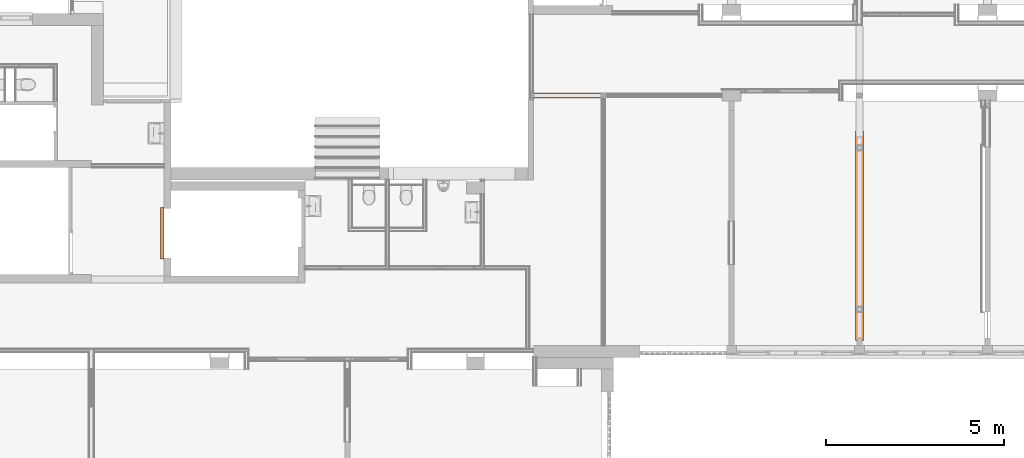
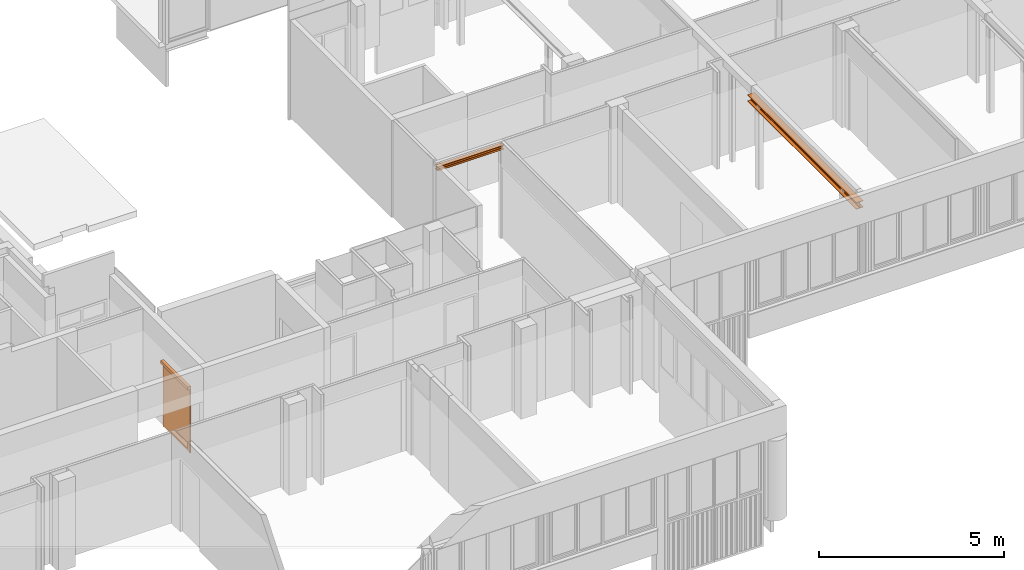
# One storey, part 94 of 99: 3 proxies.
"""IFC2X3 building model written with IfcOpenShell, lengths in millimetres."""

from ifc_helpers import new_model, entity, si_unit, converted_unit, derived_unit, money_unit, direction, frame, origin_with_axes, place, context, subcontext, project, spatial, open_shell, faceted_brep, surface_model, material, type_object, element, save


model = new_model("IFC2X3")

# Units and contexts
model_context = context("Model", 3, precision=0.01, world=origin_with_axes(), true_north=direction((0.0, 1.0)))
body_context = subcontext(model_context, "Body", "Model", "MODEL_VIEW")
ifc_project = project(units=[si_unit("LENGTHUNIT", "METRE", prefix="MILLI"), si_unit("AREAUNIT", "SQUARE_METRE"), si_unit("VOLUMEUNIT", "CUBIC_METRE"), converted_unit("PLANEANGLEUNIT", "DEGREE", entity("IfcPlaneAngleMeasure", 0.0174532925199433), si_unit("PLANEANGLEUNIT", "RADIAN"), dimensions=[0, 0, 0, 0, 0, 0, 0]), money_unit("EUR"), converted_unit("TIMEUNIT", "Year", entity("IfcTimeMeasure", 31557600.0), si_unit("TIMEUNIT", "SECOND"), dimensions=[0, 0, 1, 0, 0, 0, 0]), si_unit("MASSUNIT", "GRAM", prefix="KILO"), si_unit("THERMODYNAMICTEMPERATUREUNIT", "DEGREE_CELSIUS"), si_unit("LUMINOUSINTENSITYUNIT", "LUMEN"), si_unit("ENERGYUNIT", "JOULE", prefix="MEGA"), derived_unit("THERMALCONDUCTANCEUNIT", [(si_unit("POWERUNIT", "WATT"), 1), (si_unit("LENGTHUNIT", "METRE"), -1), (si_unit("THERMODYNAMICTEMPERATUREUNIT", "KELVIN"), -1)]), derived_unit("SPECIFICHEATCAPACITYUNIT", [(si_unit("ENERGYUNIT", "JOULE"), 1), (si_unit("MASSUNIT", "GRAM", prefix="KILO"), -1), (si_unit("THERMODYNAMICTEMPERATUREUNIT", "KELVIN"), -1)]), derived_unit("MASSDENSITYUNIT", [(si_unit("MASSUNIT", "GRAM", prefix="KILO"), 1), (si_unit("VOLUMEUNIT", "CUBIC_METRE"), -1)])], contexts=[model_context])

# Site, building, storey
site_placement = place(None, origin_with_axes())
site = spatial("IfcSite", under=ifc_project, at=site_placement, Name="Site", CompositionType="ELEMENT")
building_placement = place(site_placement, origin_with_axes())
building = spatial("IfcBuilding", under=site, at=building_placement, Name="Naam gebouw", CompositionType="ELEMENT")
storey_placement = place(building_placement, frame((0.0, 0.0, 7650.0), z_axis=(0.0, 0.0, 1.0), x_axis=(1.0, 0.0, 0.0)))
storey = spatial("IfcBuildingStorey", under=building, at=storey_placement, Name="2e verdieping N", CompositionType="ELEMENT", Elevation=7650.0)

# Proxies
ifc_material = material(Name="Metaal - Staal AFW")
building_element_proxy_type_1 = type_object("IfcBuildingElementProxyType", Name="HEA balk 27", PredefinedType="NOTDEFINED")
proxy_1_placement = place(storey_placement, frame((32439.99999999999, 18025.91242510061, 2926.999999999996), z_axis=(0.0, 0.0, 1.0), x_axis=(1.0, 0.0, 0.0)))
element("IfcBuildingElementProxy", 1, at=proxy_1_placement, inside=storey, type_object=building_element_proxy_type_1, material=ifc_material, Name="_Boom-x", context=body_context, shape_type="Brep", body=[
    faceted_brep([(0.0, -70.0, 0.0), (-2079.99999999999, -70.00000000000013, 0.0), (-2079.99999999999, 69.99999999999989, 0.0), (0.0, 70.0, 0.0), (0.0, -70.0, 8.5), (-2079.99999999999, -70.00000000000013, 8.500000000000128), (-2079.99999999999, -14.75000000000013, 8.500000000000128), (-2079.99999999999, -8.750000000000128, 10.10769515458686), (-2079.99999999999, -4.357695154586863, 14.50000000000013), (-2079.99999999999, -2.750000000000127, 20.50000000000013), (-2079.99999999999, -2.750000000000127, 112.5000000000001), (-2079.99999999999, -4.357695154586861, 118.5000000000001), (-2079.99999999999, -8.750000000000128, 122.8923048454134), (-2079.99999999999, -14.75000000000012, 124.5000000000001), (-2079.99999999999, -70.00000000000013, 124.5000000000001), (-2079.99999999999, -70.00000000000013, 133.0000000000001), (-2079.99999999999, 69.99999999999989, 133.0000000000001), (-2079.99999999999, 69.99999999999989, 124.5000000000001), (-2079.99999999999, 14.74999999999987, 124.5000000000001), (-2079.99999999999, 8.749999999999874, 122.8923048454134), (-2079.99999999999, 4.357695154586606, 118.5000000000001), (-2079.99999999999, 2.749999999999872, 112.5000000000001), (-2079.99999999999, 2.749999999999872, 20.50000000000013), (-2079.99999999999, 4.357695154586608, 14.50000000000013), (-2079.99999999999, 8.749999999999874, 10.10769515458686), (-2079.99999999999, 14.74999999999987, 8.500000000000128), (-2079.99999999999, 69.99999999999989, 8.500000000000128), (0.0, 70.0, 8.5), (0.0, 14.75, 8.5), (0.0, 8.75, 10.10769515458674), (0.0, 4.357695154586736, 14.5), (0.0, 2.749999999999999, 20.5), (0.0, 2.749999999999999, 112.5), (0.0, 4.357695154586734, 118.5), (0.0, 8.75, 122.8923048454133), (0.0, 14.75, 124.5), (0.0, 70.0, 124.5), (0.0, 70.0, 133.0), (0.0, -70.0, 133.0), (0.0, -70.0, 124.5), (0.0, -14.75, 124.5), (0.0, -8.75, 122.8923048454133), (0.0, -4.357695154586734, 118.5), (0.0, -2.749999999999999, 112.5), (0.0, -2.749999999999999, 20.5), (0.0, -4.357695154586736, 14.5), (0.0, -8.75, 10.10769515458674), (0.0, -14.75, 8.5)], [[[0, 1, 2, 3]], [[4, 5, 1, 0]], [[1, 5, 6, 7, 8, 9, 10, 11, 12, 13, 14, 15, 16, 17, 18, 19, 20, 21, 22, 23, 24, 25, 26, 2]], [[3, 2, 26, 27]], [[0, 3, 27, 28, 29, 30, 31, 32, 33, 34, 35, 36, 37, 38, 39, 40, 41, 42, 43, 44, 45, 46, 47, 4]], [[47, 6, 5, 4]], [[46, 7, 6, 47]], [[45, 8, 7, 46]], [[44, 9, 8, 45]], [[43, 10, 9, 44]], [[42, 11, 10, 43]], [[41, 12, 11, 42]], [[40, 13, 12, 41]], [[39, 14, 13, 40]], [[38, 15, 14, 39]], [[37, 16, 15, 38]], [[36, 17, 16, 37]], [[35, 18, 17, 36]], [[34, 19, 18, 35]], [[33, 20, 19, 34]], [[32, 21, 20, 33]], [[31, 22, 21, 32]], [[30, 23, 22, 31]], [[29, 24, 23, 30]], [[28, 25, 24, 29]], [[27, 26, 25, 28]]]),
])
building_element_proxy_type_2 = type_object("IfcBuildingElementProxyType", Name="HEB balk 27", PredefinedType="NOTDEFINED")
proxy_2_placement = place(storey_placement, frame((39600.0, 11130.91242510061, 2609.999999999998), z_axis=(0.0, 0.0, 1.0), x_axis=(0.0, -1.0, 0.0)))
element("IfcBuildingElementProxy", 2, at=proxy_2_placement, inside=storey, type_object=building_element_proxy_type_2, material=ifc_material, Name="_Boom-x", context=body_context, shape_type="Brep", body=[
    faceted_brep([(0.0, -110.0, 0.0), (-5890.257408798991, -110.0000000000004, 0.0), (-5890.257408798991, 109.9999999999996, 0.0), (0.0, 110.0, 0.0), (0.0, -110.0, 16.0), (-5890.257408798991, -110.0000000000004, 16.00000000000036), (-5890.257408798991, -22.75000000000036, 16.00000000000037), (-5890.257408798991, -13.75000000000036, 18.41154273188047), (-5890.257408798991, -7.161542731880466, 25.00000000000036), (-5890.257408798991, -4.750000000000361, 34.00000000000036), (-5890.257408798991, -4.750000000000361, 186.0000000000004), (-5890.257408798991, -7.161542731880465, 195.0000000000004), (-5890.257408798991, -13.75000000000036, 201.5884572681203), (-5890.257408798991, -22.75000000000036, 204.0000000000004), (-5890.257408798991, -110.0000000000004, 204.0000000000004), (-5890.257408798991, -110.0000000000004, 220.0000000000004), (-5890.257408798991, 109.9999999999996, 220.0000000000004), (-5890.257408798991, 109.9999999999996, 204.0000000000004), (-5890.257408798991, 22.74999999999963, 204.0000000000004), (-5890.257408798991, 13.74999999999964, 201.5884572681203), (-5890.257408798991, 7.161542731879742, 195.0000000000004), (-5890.257408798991, 4.74999999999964, 186.0000000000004), (-5890.257408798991, 4.74999999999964, 34.00000000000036), (-5890.257408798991, 7.161542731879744, 25.00000000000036), (-5890.257408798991, 13.74999999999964, 18.41154273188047), (-5890.257408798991, 22.74999999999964, 16.00000000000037), (-5890.257408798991, 109.9999999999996, 16.00000000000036), (0.0, 110.0, 16.0), (0.0, 22.75, 16.0), (0.0, 13.75, 18.41154273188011), (0.0, 7.161542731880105, 25.0), (0.0, 4.750000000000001, 34.0), (0.0, 4.750000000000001, 186.0), (0.0, 7.161542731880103, 195.0), (0.0, 13.75, 201.5884572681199), (0.0, 22.75, 204.0), (0.0, 110.0, 204.0), (0.0, 110.0, 220.0), (0.0, -110.0, 220.0), (0.0, -110.0, 204.0), (0.0, -22.75, 204.0), (0.0, -13.75, 201.5884572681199), (0.0, -7.161542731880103, 195.0), (0.0, -4.750000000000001, 186.0), (0.0, -4.750000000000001, 34.0), (0.0, -7.161542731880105, 25.0), (0.0, -13.75, 18.41154273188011), (0.0, -22.75, 16.0)], [[[0, 1, 2, 3]], [[4, 5, 1, 0]], [[1, 5, 6, 7, 8, 9, 10, 11, 12, 13, 14, 15, 16, 17, 18, 19, 20, 21, 22, 23, 24, 25, 26, 2]], [[3, 2, 26, 27]], [[0, 3, 27, 28, 29, 30, 31, 32, 33, 34, 35, 36, 37, 38, 39, 40, 41, 42, 43, 44, 45, 46, 47, 4]], [[47, 6, 5, 4]], [[46, 7, 6, 47]], [[45, 8, 7, 46]], [[44, 9, 8, 45]], [[43, 10, 9, 44]], [[42, 11, 10, 43]], [[41, 12, 11, 42]], [[40, 13, 12, 41]], [[39, 14, 13, 40]], [[38, 15, 14, 39]], [[37, 16, 15, 38]], [[36, 17, 16, 37]], [[35, 18, 17, 36]], [[34, 19, 18, 35]], [[33, 20, 19, 34]], [[32, 21, 20, 33]], [[31, 22, 21, 32]], [[30, 23, 22, 31]], [[29, 24, 23, 30]], [[28, 25, 24, 29]], [[27, 26, 25, 28]]]),
])
building_element_proxy_type_3 = type_object("IfcBuildingElementProxyType", Name="Screen 26 KM", PredefinedType="NOTDEFINED")
proxy_3_placement = place(storey_placement, frame((20040.99999999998, 14880.60803964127, 0.0), z_axis=(0.0, 0.0, 1.0), x_axis=(0.0, -1.0, 0.0)))
element("IfcBuildingElementProxy", 3, at=proxy_3_placement, inside=storey, type_object=building_element_proxy_type_3, Name="_Boom-x", context=body_context, shape_type="SurfaceModel", body=[
    faceted_brep([(0.0, 0.0, 0.0), (0.0, -30.0, 0.0), (0.0, -30.0, 2099.999999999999), (0.0, 0.0, 2099.999999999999), (40.0, 0.0, 0.0), (40.0, -4.999999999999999, 0.0), (37.0, -4.999999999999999, 0.0), (37.0, -3.0, 0.0), (3.0, -3.0, 0.0), (3.0, -27.0, 0.0), (37.0, -27.0, 0.0), (37.0, -25.0, 0.0), (40.0, -25.0, 0.0), (40.0, -30.0, 0.0), (40.0, -30.0, 2099.999999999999), (40.0, -25.0, 2099.999999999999), (37.0, -25.0, 2099.999999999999), (37.0, -27.0, 2099.999999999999), (3.0, -27.0, 2099.999999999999), (3.0, -3.0, 2099.999999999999), (37.0, -3.0, 2099.999999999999), (37.0, -4.999999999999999, 2099.999999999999), (40.0, -4.999999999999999, 2099.999999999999), (40.0, 0.0, 2099.999999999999)], [[[0, 1, 2, 3]], [[0, 4, 5, 6, 7, 8, 9, 10, 11, 12, 13, 1]], [[1, 13, 14, 2]], [[3, 2, 14, 15, 16, 17, 18, 19, 20, 21, 22, 23]], [[4, 0, 3, 23]], [[5, 4, 23, 22]], [[6, 5, 22, 21]], [[7, 6, 21, 20]], [[8, 7, 20, 19]], [[9, 8, 19, 18]], [[10, 9, 18, 17]], [[11, 10, 17, 16]], [[12, 11, 16, 15]], [[13, 12, 15, 14]]]),
    faceted_brep([(1460.0, 0.0, 0.0), (1460.0, 0.0, 2099.999999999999), (1460.0, -30.0, 2099.999999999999), (1460.0, -30.0, 0.0), (1420.0, 0.0, 0.0), (1420.0, 0.0, 2099.999999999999), (1420.0, -4.999999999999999, 2099.999999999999), (1423.0, -4.999999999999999, 2099.999999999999), (1423.0, -3.0, 2099.999999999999), (1457.0, -3.0, 2099.999999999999), (1457.0, -27.0, 2099.999999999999), (1423.0, -27.0, 2099.999999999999), (1423.0, -25.0, 2099.999999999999), (1420.0, -25.0, 2099.999999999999), (1420.0, -30.0, 2099.999999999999), (1420.0, -30.0, 0.0), (1420.0, -25.0, 0.0), (1423.0, -25.0, 0.0), (1423.0, -27.0, 0.0), (1457.0, -27.0, 0.0), (1457.0, -3.0, 0.0), (1423.0, -3.0, 0.0), (1423.0, -4.999999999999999, 0.0), (1420.0, -4.999999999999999, 0.0)], [[[0, 1, 2, 3]], [[4, 5, 1, 0]], [[1, 5, 6, 7, 8, 9, 10, 11, 12, 13, 14, 2]], [[3, 2, 14, 15]], [[0, 3, 15, 16, 17, 18, 19, 20, 21, 22, 23, 4]], [[23, 6, 5, 4]], [[22, 7, 6, 23]], [[21, 8, 7, 22]], [[20, 9, 8, 21]], [[19, 10, 9, 20]], [[18, 11, 10, 19]], [[17, 12, 11, 18]], [[16, 13, 12, 17]], [[15, 14, 13, 16]]]),
    surface_model("IfcShellBasedSurfaceModel", [(0.0, 0.0, 2199.999999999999), (0.0, 0.0, 2099.999999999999), (0.0, -100.0, 2099.999999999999), (0.0, -100.0, 2199.999999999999)], [open_shell([[[0, 1, 2, 3]]])]),
    surface_model("IfcShellBasedSurfaceModel", [(0.01, 0.0, 2199.999999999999), (0.009999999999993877, -100.0, 2199.999999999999), (1459.99, -100.0000000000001, 2199.999999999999), (1459.99, 0.0, 2199.999999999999), (0.01000000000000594, 0.0, 2102.999999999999), (0.01000000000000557, -6.0, 2102.999999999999), (0.01000000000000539, -6.0, 2106.0), (0.01000000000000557, -3.0, 2106.0), (0.01, -3.0, 2196.999999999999), (0.009999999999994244, -97.0, 2196.999999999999), (0.01, -97.0, 2102.999999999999), (0.0100000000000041, -30.0, 2102.999999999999), (0.01000000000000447, -30.0, 2096.999999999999), (0.01000000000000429, -33.0, 2096.999999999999), (0.0100000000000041, -33.0, 2099.999999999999), (0.01, -100.0, 2099.999999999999), (1459.99, -100.0000000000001, 2099.999999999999), (1459.99, -33.00000000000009, 2099.999999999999), (1459.99, -33.00000000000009, 2097.0), (1459.99, -30.00000000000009, 2097.0), (1459.99, -30.00000000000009, 2102.999999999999), (1459.99, -97.00000000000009, 2102.999999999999), (1459.99, -97.00000000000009, 2196.999999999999), (1459.99, -3.000000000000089, 2196.999999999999), (1459.99, -3.000000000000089, 2106.0), (1459.99, -6.00000000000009, 2106.0), (1459.99, -6.00000000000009, 2102.999999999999), (1459.99, 0.0, 2102.999999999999)], [open_shell([[[0, 1, 2, 3]], [[0, 4, 5, 6, 7, 8, 9, 10, 11, 12, 13, 14, 15, 1]], [[1, 15, 16, 2]], [[3, 2, 16, 17, 18, 19, 20, 21, 22, 23, 24, 25, 26, 27]], [[4, 0, 3, 27]], [[13, 12, 19, 18]], [[14, 13, 18, 17]], [[15, 14, 17, 16]]])]),
    surface_model("IfcShellBasedSurfaceModel", [(1459.99, 0.0, 2199.999999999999), (1459.99, 0.0, 2099.999999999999), (1459.99, -100.0000000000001, 2099.999999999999), (1459.99, -100.0000000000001, 2199.999999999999)], [open_shell([[[0, 1, 2, 3]]])]),
    faceted_brep([(3.000000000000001, -34.73547982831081, 2147.308453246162), (3.000000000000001, -35.43476437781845, 2144.698687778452), (3.000000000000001, -36.57660624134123, 2142.25), (3.000000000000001, -38.12631113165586, 2140.036792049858), (3.000000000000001, -40.03679204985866, 2138.126311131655), (3.000000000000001, -42.25000000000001, 2136.57660624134), (3.000000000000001, -44.69868777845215, 2135.434764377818), (3.000000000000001, -47.30845324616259, 2134.73547982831), (3.000000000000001, -50.0, 2134.5), (3.000000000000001, -52.69154675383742, 2134.73547982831), (3.0, -55.30131222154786, 2135.434764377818), (3.0, -57.74999999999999, 2136.57660624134), (3.0, -59.96320795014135, 2138.126311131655), (3.0, -61.87368886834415, 2140.036792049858), (3.0, -63.42339375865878, 2142.25), (3.0, -64.56523562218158, 2144.698687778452), (2.999999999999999, -65.26452017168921, 2147.308453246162), (2.999999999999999, -65.49999999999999, 2150.0), (2.999999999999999, -65.26452017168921, 2152.691546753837), (2.999999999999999, -64.56523562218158, 2155.301312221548), (2.999999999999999, -63.4233937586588, 2157.75), (2.999999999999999, -61.87368886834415, 2159.963207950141), (2.999999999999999, -59.96320795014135, 2161.873688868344), (2.999999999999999, -57.74999999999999, 2163.423393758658), (2.999999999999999, -55.30131222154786, 2164.565235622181), (2.999999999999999, -52.69154675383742, 2165.264520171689), (2.999999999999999, -50.0, 2165.499999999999), (2.999999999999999, -47.30845324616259, 2165.264520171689), (3.0, -44.69868777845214, 2164.565235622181), (3.0, -42.25, 2163.423393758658), (3.0, -40.03679204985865, 2161.873688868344), (3.0, -38.12631113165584, 2159.963207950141), (3.0, -36.57660624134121, 2157.75), (3.0, -35.43476437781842, 2155.301312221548), (3.000000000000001, -34.73547982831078, 2152.691546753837), (3.000000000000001, -34.5, 2150.0), (1457.0, -34.7354798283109, 2147.308453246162), (1457.0, -35.43476437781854, 2144.698687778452), (1457.0, -36.57660624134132, 2142.25), (1457.0, -38.12631113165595, 2140.036792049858), (1457.0, -40.03679204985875, 2138.126311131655), (1457.0, -42.25000000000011, 2136.576606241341), (1457.0, -44.69868777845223, 2135.434764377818), (1457.0, -47.30845324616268, 2134.73547982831), (1457.0, -50.00000000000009, 2134.5), (1457.0, -52.69154675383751, 2134.73547982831), (1457.0, -55.30131222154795, 2135.434764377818), (1457.0, -57.75000000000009, 2136.576606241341), (1457.0, -59.96320795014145, 2138.126311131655), (1457.0, -61.87368886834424, 2140.036792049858), (1457.0, -63.42339375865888, 2142.25), (1457.0, -64.56523562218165, 2144.698687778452), (1457.0, -65.2645201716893, 2147.308453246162), (1457.0, -65.50000000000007, 2150.0), (1457.0, -65.26452017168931, 2152.691546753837), (1457.0, -64.56523562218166, 2155.301312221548), (1457.0, -63.42339375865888, 2157.75), (1457.0, -61.87368886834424, 2159.963207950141), (1457.0, -59.96320795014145, 2161.873688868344), (1457.0, -57.75000000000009, 2163.423393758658), (1457.0, -55.30131222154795, 2164.565235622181), (1457.0, -52.69154675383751, 2165.264520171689), (1457.0, -50.00000000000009, 2165.5), (1457.0, -47.30845324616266, 2165.264520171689), (1457.0, -44.69868777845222, 2164.565235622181), (1457.0, -42.25000000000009, 2163.423393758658), (1457.0, -40.03679204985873, 2161.873688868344), (1457.0, -38.12631113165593, 2159.963207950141), (1457.0, -36.5766062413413, 2157.75), (1457.0, -35.43476437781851, 2155.301312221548), (1457.0, -34.73547982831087, 2152.691546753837), (1457.0, -34.50000000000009, 2150.0)], [[[0, 1, 2, 3, 4, 5, 6, 7, 8, 9, 10, 11, 12, 13, 14, 15, 16, 17, 18, 19, 20, 21, 22, 23, 24, 25, 26, 27, 28, 29, 30, 31, 32, 33, 34, 35]], [[1, 0, 36, 37]], [[2, 1, 37, 38]], [[3, 2, 38, 39]], [[4, 3, 39, 40]], [[5, 4, 40, 41]], [[6, 5, 41, 42]], [[7, 6, 42, 43]], [[8, 7, 43, 44]], [[9, 8, 44, 45]], [[10, 9, 45, 46]], [[11, 10, 46, 47]], [[12, 11, 47, 48]], [[13, 12, 48, 49]], [[14, 13, 49, 50]], [[15, 14, 50, 51]], [[16, 15, 51, 52]], [[17, 16, 52, 53]], [[18, 17, 53, 54]], [[19, 18, 54, 55]], [[20, 19, 55, 56]], [[21, 20, 56, 57]], [[22, 21, 57, 58]], [[23, 22, 58, 59]], [[24, 23, 59, 60]], [[25, 24, 60, 61]], [[26, 25, 61, 62]], [[27, 26, 62, 63]], [[28, 27, 63, 64]], [[29, 28, 64, 65]], [[30, 29, 65, 66]], [[31, 30, 66, 67]], [[32, 31, 67, 68]], [[33, 32, 68, 69]], [[34, 33, 69, 70]], [[35, 34, 70, 71]], [[0, 35, 71, 36]], [[36, 71, 70, 69, 68, 67, 66, 65, 64, 63, 62, 61, 60, 59, 58, 57, 56, 55, 54, 53, 52, 51, 50, 49, 48, 47, 46, 45, 44, 43, 42, 41, 40, 39, 38, 37]]]),
    faceted_brep([(3.0, -14.0, 0.0), (3.0, -16.0, 0.0), (3.0, -16.0, 2099.999999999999), (3.0, -14.0, 2099.999999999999), (1457.0, -14.0, 0.0), (1457.0, -16.0, 0.0), (1457.0, -16.0, 2099.999999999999), (1457.0, -14.0, 2099.999999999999)], [[[0, 1, 2, 3]], [[0, 4, 5, 1]], [[1, 5, 6, 2]], [[3, 2, 6, 7]], [[4, 0, 3, 7]], [[5, 4, 7, 6]]]),
])

save(model, "model.ifc")
